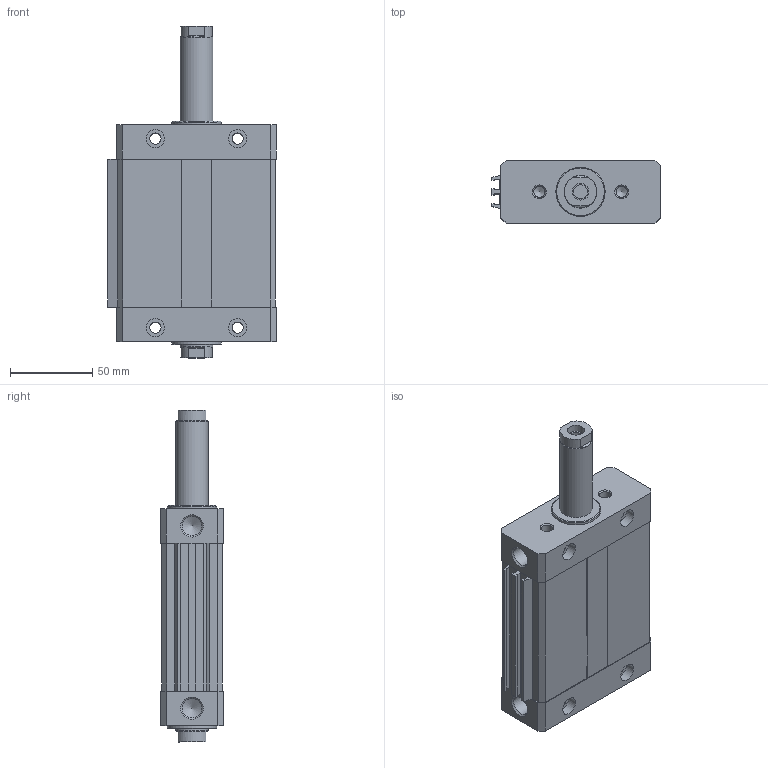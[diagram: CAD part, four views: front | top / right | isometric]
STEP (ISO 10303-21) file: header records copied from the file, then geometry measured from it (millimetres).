
FILE_DESCRIPTION((''),'2;1');
FILE_NAME('I:\Area Tecnica\Disegni\VARIE-3D\Componenti\1370 - CPO\1370_##_0000_03\1370_50_0050_03-01.iam.step','2010-12-16T10:58:05',(''),(''),'Autodesk Inventor 2011','Autodesk Inventor 2011','');
FILE_SCHEMA(('AUTOMOTIVE_DESIGN { 1 0 10303 214 1 1 1 1 }'));
Length unit declared in the file: millimetre
Products named in the file (5): 1370_50_0050_03-01; 1370_05_50_0000; 1370_06_50_0050; 1370_08_50_0000; 1370_3_50_0050
Assembly tree (4 placements, depth 2):
  1370_50_0050_03-01
    1370_05_50_0000
    1370_06_50_0050
    1370_08_50_0000
    1370_3_50_0050
Bounding box: 102.5 x 38 x 202 mm (x, y, z)
Volume: 398456.9 mm3; surface area: 106842.4 mm2
Topology: 4 solids, 4 shells, 164 faces, 398 edges, 252 vertices
Faces by surface type: plane 94, cylinder 50, cone 20
Full cylindrical faces by diameter (mm): 6.8 x18, 8.5 x2, 10.3 x2, 11 x8, 11.75 x2, 20 x4, 30 x2
Entity records: 4722 total; most frequent: DIRECTION 794, CARTESIAN_POINT 737, ORIENTED_EDGE 652, EDGE_CURVE 326, AXIS2_PLACEMENT_3D 295, EDGE_LOOP 254, VERTEX_POINT 238, VECTOR 204
